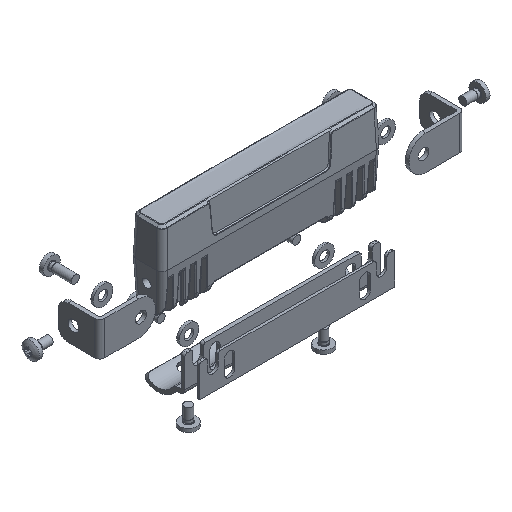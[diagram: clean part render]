
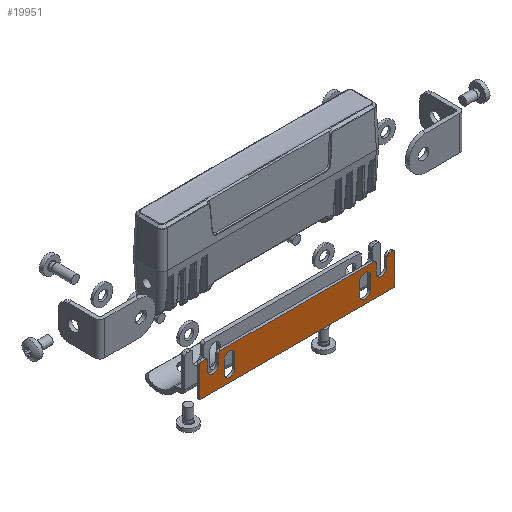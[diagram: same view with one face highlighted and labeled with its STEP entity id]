
A CAD part, isometric view. The second image highlights one B-rep face of the part: STEP entity #19951.
In plain terms, the highlighted planar face has unit normal (0, -1, 0).
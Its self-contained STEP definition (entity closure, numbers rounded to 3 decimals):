
#2068=CIRCLE('',#22165,1.);
#2070=CIRCLE('',#22169,2.2);
#2072=CIRCLE('',#22173,1.);
#2074=CIRCLE('',#22177,1.);
#2076=CIRCLE('',#22181,2.2);
#2078=CIRCLE('',#22185,1.);
#2080=CIRCLE('',#22189,1.);
#2082=CIRCLE('',#22195,2.2);
#2084=CIRCLE('',#22199,2.2);
#2086=CIRCLE('',#22202,2.2);
#2088=CIRCLE('',#22206,2.2);
#2089=CIRCLE('',#22210,1.);
#2225=FACE_BOUND('',#4752,.T.);
#2226=FACE_BOUND('',#4753,.T.);
#3401=FACE_OUTER_BOUND('',#4751,.T.);
#4751=EDGE_LOOP('',(#17657,#17658,#17659,#17660,#17661,#17662,#17663,#17664,
#17665,#17666,#17667,#17668,#17669,#17670,#17671,#17672,#17673,#17674));
#4752=EDGE_LOOP('',(#17675,#17676,#17677,#17678));
#4753=EDGE_LOOP('',(#17679,#17680,#17681,#17682));
#6347=LINE('',#45027,#7598);
#6351=LINE('',#45039,#7602);
#6355=LINE('',#45051,#7606);
#6359=LINE('',#45063,#7610);
#6363=LINE('',#45075,#7614);
#6367=LINE('',#45087,#7618);
#6371=LINE('',#45099,#7622);
#6375=LINE('',#45111,#7626);
#6378=LINE('',#45117,#7629);
#6381=LINE('',#45123,#7632);
#6386=LINE('',#45138,#7637);
#6392=LINE('',#45159,#7643);
#6394=LINE('',#45167,#7645);
#6396=LINE('',#45170,#7647);
#7598=VECTOR('',#27555,1.);
#7602=VECTOR('',#27567,1.);
#7606=VECTOR('',#27579,1.);
#7610=VECTOR('',#27591,1.);
#7614=VECTOR('',#27603,1.);
#7618=VECTOR('',#27615,1.);
#7622=VECTOR('',#27627,1.);
#7626=VECTOR('',#27639,1.);
#7629=VECTOR('',#27644,1.);
#7632=VECTOR('',#27649,1.);
#7637=VECTOR('',#27662,1.);
#7643=VECTOR('',#27682,1.);
#7645=VECTOR('',#27692,1.);
#7647=VECTOR('',#27696,1.);
#9231=VERTEX_POINT('',#45020);
#9234=VERTEX_POINT('',#45025);
#9236=VERTEX_POINT('',#45031);
#9238=VERTEX_POINT('',#45037);
#9240=VERTEX_POINT('',#45043);
#9242=VERTEX_POINT('',#45049);
#9244=VERTEX_POINT('',#45055);
#9246=VERTEX_POINT('',#45061);
#9248=VERTEX_POINT('',#45067);
#9250=VERTEX_POINT('',#45073);
#9252=VERTEX_POINT('',#45079);
#9254=VERTEX_POINT('',#45085);
#9256=VERTEX_POINT('',#45091);
#9258=VERTEX_POINT('',#45097);
#9260=VERTEX_POINT('',#45103);
#9262=VERTEX_POINT('',#45109);
#9264=VERTEX_POINT('',#45115);
#9266=VERTEX_POINT('',#45121);
#9267=VERTEX_POINT('',#45125);
#9270=VERTEX_POINT('',#45130);
#9272=VERTEX_POINT('',#45136);
#9274=VERTEX_POINT('',#45142);
#9275=VERTEX_POINT('',#45146);
#9278=VERTEX_POINT('',#45151);
#9280=VERTEX_POINT('',#45157);
#9282=VERTEX_POINT('',#45163);
#12024=EDGE_CURVE('',#9231,#9234,#6347,.T.);
#12027=EDGE_CURVE('',#9234,#9236,#2068,.T.);
#12030=EDGE_CURVE('',#9236,#9238,#6351,.T.);
#12033=EDGE_CURVE('',#9238,#9240,#2070,.T.);
#12036=EDGE_CURVE('',#9240,#9242,#6355,.T.);
#12039=EDGE_CURVE('',#9242,#9244,#2072,.T.);
#12042=EDGE_CURVE('',#9244,#9246,#6359,.T.);
#12045=EDGE_CURVE('',#9246,#9248,#2074,.T.);
#12048=EDGE_CURVE('',#9248,#9250,#6363,.T.);
#12051=EDGE_CURVE('',#9250,#9252,#2076,.T.);
#12054=EDGE_CURVE('',#9252,#9254,#6367,.T.);
#12057=EDGE_CURVE('',#9254,#9256,#2078,.T.);
#12060=EDGE_CURVE('',#9256,#9258,#6371,.T.);
#12063=EDGE_CURVE('',#9258,#9260,#2080,.T.);
#12066=EDGE_CURVE('',#9260,#9262,#6375,.T.);
#12069=EDGE_CURVE('',#9262,#9264,#6378,.T.);
#12072=EDGE_CURVE('',#9264,#9266,#6381,.T.);
#12076=EDGE_CURVE('',#9267,#9270,#2082,.T.);
#12079=EDGE_CURVE('',#9270,#9272,#6386,.T.);
#12082=EDGE_CURVE('',#9272,#9274,#2084,.T.);
#12086=EDGE_CURVE('',#9275,#9278,#2086,.T.);
#12089=EDGE_CURVE('',#9278,#9280,#6392,.T.);
#12092=EDGE_CURVE('',#9280,#9282,#2088,.T.);
#12093=EDGE_CURVE('',#9282,#9275,#6394,.T.);
#12095=EDGE_CURVE('',#9274,#9267,#6396,.T.);
#12097=EDGE_CURVE('',#9266,#9231,#2089,.T.);
#17657=ORIENTED_EDGE('',*,*,#12072,.T.);
#17658=ORIENTED_EDGE('',*,*,#12097,.T.);
#17659=ORIENTED_EDGE('',*,*,#12024,.T.);
#17660=ORIENTED_EDGE('',*,*,#12027,.T.);
#17661=ORIENTED_EDGE('',*,*,#12030,.T.);
#17662=ORIENTED_EDGE('',*,*,#12033,.T.);
#17663=ORIENTED_EDGE('',*,*,#12036,.T.);
#17664=ORIENTED_EDGE('',*,*,#12039,.T.);
#17665=ORIENTED_EDGE('',*,*,#12042,.T.);
#17666=ORIENTED_EDGE('',*,*,#12045,.T.);
#17667=ORIENTED_EDGE('',*,*,#12048,.T.);
#17668=ORIENTED_EDGE('',*,*,#12051,.T.);
#17669=ORIENTED_EDGE('',*,*,#12054,.T.);
#17670=ORIENTED_EDGE('',*,*,#12057,.T.);
#17671=ORIENTED_EDGE('',*,*,#12060,.T.);
#17672=ORIENTED_EDGE('',*,*,#12063,.T.);
#17673=ORIENTED_EDGE('',*,*,#12066,.T.);
#17674=ORIENTED_EDGE('',*,*,#12069,.T.);
#17675=ORIENTED_EDGE('',*,*,#12092,.T.);
#17676=ORIENTED_EDGE('',*,*,#12093,.T.);
#17677=ORIENTED_EDGE('',*,*,#12086,.T.);
#17678=ORIENTED_EDGE('',*,*,#12089,.T.);
#17679=ORIENTED_EDGE('',*,*,#12082,.T.);
#17680=ORIENTED_EDGE('',*,*,#12095,.T.);
#17681=ORIENTED_EDGE('',*,*,#12076,.T.);
#17682=ORIENTED_EDGE('',*,*,#12079,.T.);
#18752=PLANE('',#22213);
#19951=ADVANCED_FACE('',(#3401,#2225,#2226),#18752,.F.);
#22165=AXIS2_PLACEMENT_3D('',#45033,#27561,#27562);
#22169=AXIS2_PLACEMENT_3D('',#45045,#27573,#27574);
#22173=AXIS2_PLACEMENT_3D('',#45057,#27585,#27586);
#22177=AXIS2_PLACEMENT_3D('',#45069,#27597,#27598);
#22181=AXIS2_PLACEMENT_3D('',#45081,#27609,#27610);
#22185=AXIS2_PLACEMENT_3D('',#45093,#27621,#27622);
#22189=AXIS2_PLACEMENT_3D('',#45105,#27633,#27634);
#22195=AXIS2_PLACEMENT_3D('',#45132,#27656,#27657);
#22199=AXIS2_PLACEMENT_3D('',#45144,#27668,#27669);
#22202=AXIS2_PLACEMENT_3D('',#45153,#27676,#27677);
#22206=AXIS2_PLACEMENT_3D('',#45165,#27688,#27689);
#22210=AXIS2_PLACEMENT_3D('',#45173,#27700,#27701);
#22213=AXIS2_PLACEMENT_3D('',#45176,#27706,#27707);
#27555=DIRECTION('',(-1.,0.,0.));
#27561=DIRECTION('center_axis',(0.,-1.,0.));
#27562=DIRECTION('ref_axis',(0.,0.,1.));
#27567=DIRECTION('',(0.,0.,-1.));
#27573=DIRECTION('center_axis',(0.,1.,0.));
#27574=DIRECTION('ref_axis',(0.,0.,-1.));
#27579=DIRECTION('',(0.,0.,1.));
#27585=DIRECTION('center_axis',(0.,-1.,0.));
#27586=DIRECTION('ref_axis',(0.,0.,1.));
#27591=DIRECTION('',(-1.,0.,0.));
#27597=DIRECTION('center_axis',(0.,-1.,0.));
#27598=DIRECTION('ref_axis',(0.,0.,1.));
#27603=DIRECTION('',(0.,0.,-1.));
#27609=DIRECTION('center_axis',(0.,1.,0.));
#27610=DIRECTION('ref_axis',(0.,0.,1.));
#27615=DIRECTION('',(0.,0.,1.));
#27621=DIRECTION('center_axis',(0.,-1.,0.));
#27622=DIRECTION('ref_axis',(0.,0.,1.));
#27627=DIRECTION('',(-1.,0.,0.));
#27633=DIRECTION('center_axis',(0.,-1.,0.));
#27634=DIRECTION('ref_axis',(0.,0.,1.));
#27639=DIRECTION('',(0.,0.,-1.));
#27644=DIRECTION('',(1.,0.,0.));
#27649=DIRECTION('',(0.,0.,1.));
#27656=DIRECTION('center_axis',(0.,1.,0.));
#27657=DIRECTION('ref_axis',(0.,0.,-1.));
#27662=DIRECTION('',(0.,0.,-1.));
#27668=DIRECTION('center_axis',(0.,1.,0.));
#27669=DIRECTION('ref_axis',(0.,0.,-1.));
#27676=DIRECTION('center_axis',(0.,1.,0.));
#27677=DIRECTION('ref_axis',(0.,0.,-1.));
#27682=DIRECTION('',(0.,0.,-1.));
#27688=DIRECTION('center_axis',(0.,1.,0.));
#27689=DIRECTION('ref_axis',(0.,0.,-1.));
#27692=DIRECTION('',(0.,0.,1.));
#27696=DIRECTION('',(0.,0.,1.));
#27700=DIRECTION('center_axis',(0.,-1.,0.));
#27701=DIRECTION('ref_axis',(0.,0.,1.));
#27706=DIRECTION('center_axis',(0.,1.,0.));
#27707=DIRECTION('ref_axis',(0.,0.,-1.));
#45020=CARTESIAN_POINT('',(39.,-16.893,-28.669));
#45025=CARTESIAN_POINT('',(37.7,-16.893,-28.669));
#45027=CARTESIAN_POINT('',(-346.5,-16.893,-28.669));
#45031=CARTESIAN_POINT('',(36.7,-16.893,-29.669));
#45033=CARTESIAN_POINT('Origin',(37.7,-16.893,-29.669));
#45037=CARTESIAN_POINT('',(36.7,-16.893,-33.169));
#45039=CARTESIAN_POINT('',(36.7,-16.893,-43.198));
#45043=CARTESIAN_POINT('',(32.3,-16.893,-33.169));
#45045=CARTESIAN_POINT('Origin',(34.5,-16.893,-33.169));
#45049=CARTESIAN_POINT('',(32.3,-16.893,-29.669));
#45051=CARTESIAN_POINT('',(32.3,-16.893,-43.198));
#45055=CARTESIAN_POINT('',(31.3,-16.893,-28.669));
#45057=CARTESIAN_POINT('Origin',(31.3,-16.893,-29.669));
#45061=CARTESIAN_POINT('',(-31.3,-16.893,-28.669));
#45063=CARTESIAN_POINT('',(-346.5,-16.893,-28.669));
#45067=CARTESIAN_POINT('',(-32.3,-16.893,-29.669));
#45069=CARTESIAN_POINT('Origin',(-31.3,-16.893,-29.669));
#45073=CARTESIAN_POINT('',(-32.3,-16.893,-33.169));
#45075=CARTESIAN_POINT('',(-32.3,-16.893,-43.198));
#45079=CARTESIAN_POINT('',(-36.7,-16.893,-33.169));
#45081=CARTESIAN_POINT('Origin',(-34.5,-16.893,-33.169));
#45085=CARTESIAN_POINT('',(-36.7,-16.893,-29.669));
#45087=CARTESIAN_POINT('',(-36.7,-16.893,-43.198));
#45091=CARTESIAN_POINT('',(-37.7,-16.893,-28.669));
#45093=CARTESIAN_POINT('Origin',(-37.7,-16.893,-29.669));
#45097=CARTESIAN_POINT('',(-39.,-16.893,-28.669));
#45099=CARTESIAN_POINT('',(-346.5,-16.893,-28.669));
#45103=CARTESIAN_POINT('',(-40.,-16.893,-29.669));
#45105=CARTESIAN_POINT('Origin',(-39.,-16.893,-29.669));
#45109=CARTESIAN_POINT('',(-40.,-16.893,-41.929));
#45111=CARTESIAN_POINT('',(-40.,-16.893,-43.198));
#45115=CARTESIAN_POINT('',(40.,-16.893,-41.929));
#45117=CARTESIAN_POINT('',(-346.5,-16.893,-41.929));
#45121=CARTESIAN_POINT('',(40.,-16.893,-29.669));
#45123=CARTESIAN_POINT('',(40.,-16.893,-43.198));
#45125=CARTESIAN_POINT('',(25.55,-16.893,-32.869));
#45130=CARTESIAN_POINT('',(29.95,-16.893,-32.869));
#45132=CARTESIAN_POINT('Origin',(27.75,-16.893,-32.869));
#45136=CARTESIAN_POINT('',(29.95,-16.893,-37.869));
#45138=CARTESIAN_POINT('',(29.95,-16.893,-43.198));
#45142=CARTESIAN_POINT('',(25.55,-16.893,-37.869));
#45144=CARTESIAN_POINT('Origin',(27.75,-16.893,-37.869));
#45146=CARTESIAN_POINT('',(-29.95,-16.893,-32.869));
#45151=CARTESIAN_POINT('',(-25.55,-16.893,-32.869));
#45153=CARTESIAN_POINT('Origin',(-27.75,-16.893,-32.869));
#45157=CARTESIAN_POINT('',(-25.55,-16.893,-37.869));
#45159=CARTESIAN_POINT('',(-25.55,-16.893,-43.198));
#45163=CARTESIAN_POINT('',(-29.95,-16.893,-37.869));
#45165=CARTESIAN_POINT('Origin',(-27.75,-16.893,-37.869));
#45167=CARTESIAN_POINT('',(-29.95,-16.893,-43.198));
#45170=CARTESIAN_POINT('',(25.55,-16.893,-43.198));
#45173=CARTESIAN_POINT('Origin',(39.,-16.893,-29.669));
#45176=CARTESIAN_POINT('Origin',(-346.5,-16.893,-43.198));
